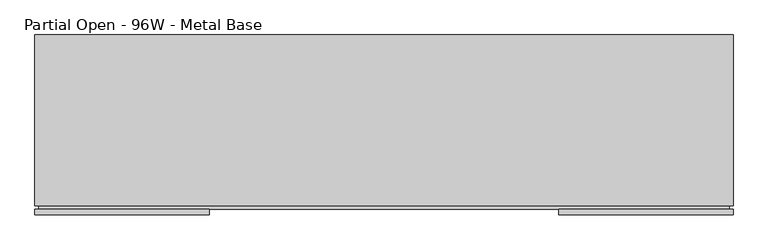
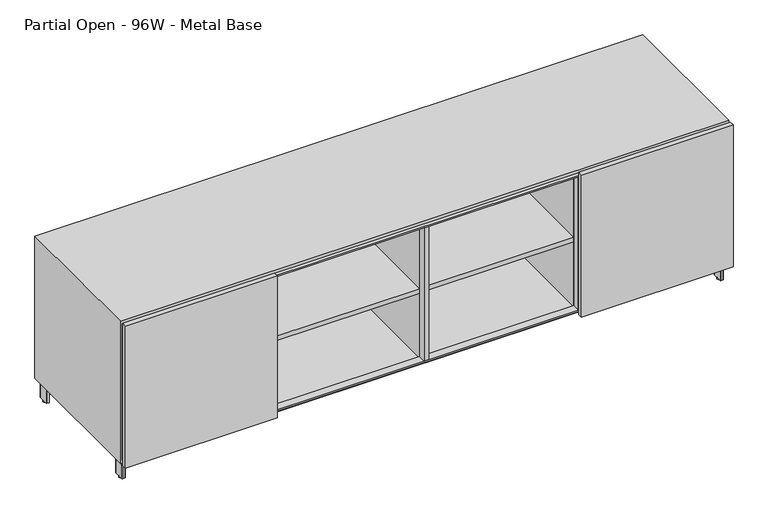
"""IFC4 building model written with IfcOpenShell, lengths in millimetres: furniture geometry, Steelcase Coalesse - Exponents - Storage - Credenza - 27H : Partial Open - 96W - Metal Base."""

from ifc_helpers import new_model, si_unit, point, frame, frame_2d, origin, origin_with_axes, place, context, project, spatial, polyline, circle_curve, trimmed, segment, composite_curve, outline, extrude, faceted_brep, source, transform, mapped, element, save


def partial_open_96w_metal_base_f76c5528(model_context):
    return source(origin(), model_context, "Body", "SolidModel", [
        faceted_brep([(6.35, 31.75, 673.1), (6.35, 31.75, 95.25), (6.35, 622.3, 95.25), (6.35, 622.3, 673.1), (2432.05, 622.3, 95.25), (2432.05, 622.3, 673.1), (2432.05, 31.75, 95.25), (2432.05, 31.75, 673.1), (0.0, 31.75, 82.55), (2438.4, 31.75, 82.55), (2438.4, 31.75, 685.8), (0.0, 31.75, 685.8), (2438.4, 628.65, 82.55), (2438.4, 628.65, 685.8), (0.0, 628.65, 82.55), (0.0, 628.65, 685.8)], [[[0, 1, 2, 3]], [[3, 2, 4, 5]], [[5, 4, 6, 7]], [[8, 9, 10, 11], [7, 6, 1, 0]], [[10, 9, 12, 13]], [[13, 12, 14, 15]], [[15, 14, 8, 11]], [[7, 0, 3, 5]], [[10, 13, 15, 11]], [[1, 6, 4, 2]], [[12, 9, 8, 14]]]),
        extrude(outline(composite_curve([segment(polyline([(2414.7506426, 615.95), (2423.922, 615.95)]), True, "CONTINUOUS"), segment(trimmed(circle_curve(frame_2d((2423.922, 614.172)), 1.778), [point((2423.922, 615.95))], [point((2425.7, 614.172))], False, "CARTESIAN"), True, "CONTINUOUS"), segment(polyline([(2425.7, 614.172), (2425.7, 572.9986)]), True, "CONTINUOUS"), segment(trimmed(circle_curve(frame_2d((2423.922, 572.9986)), 1.778), [point((2425.7, 572.9986))], [point((2423.922, 571.2206))], False, "CARTESIAN"), True, "CONTINUOUS"), segment(polyline([(2423.922, 571.2206), (2414.7948916, 571.2206)]), True, "CONTINUOUS"), segment(trimmed(circle_curve(frame_2d((2414.7948916, 573.0154916)), 1.7948916), [point((2414.7948916, 571.2206))], [point((2413.0, 573.0154916))], False, "CARTESIAN"), True, "CONTINUOUS"), segment(polyline([(2413.0, 573.0154916), (2413.0, 614.1993574)]), True, "CONTINUOUS"), segment(trimmed(circle_curve(frame_2d((2414.7506426, 614.1993574)), 1.7506426), [point((2413.0, 614.1993574))], [point((2414.7506426, 615.95))], False, "CARTESIAN"), True, "CONTINUOUS")], self_intersect=False)), frame((0.0, 0.0, 6.35), z_axis=(0.0, 0.0, 1.0), x_axis=(1.0, 0.0, 0.0)), (0.0, 0.0, 1.0), 73.4568),
        extrude(outline(composite_curve([segment(polyline([(2414.7506426, 88.9), (2423.922, 88.9)]), True, "CONTINUOUS"), segment(trimmed(circle_curve(frame_2d((2423.922, 87.122)), 1.778), [point((2423.922, 88.9))], [point((2425.7, 87.122))], False, "CARTESIAN"), True, "CONTINUOUS"), segment(polyline([(2425.7, 87.122), (2425.7, 45.9486)]), True, "CONTINUOUS"), segment(trimmed(circle_curve(frame_2d((2423.922, 45.9486)), 1.778), [point((2425.7, 45.9486))], [point((2423.922, 44.1706))], False, "CARTESIAN"), True, "CONTINUOUS"), segment(polyline([(2423.922, 44.1706), (2414.7948916, 44.1706)]), True, "CONTINUOUS"), segment(trimmed(circle_curve(frame_2d((2414.7948916, 45.9654916)), 1.7948916), [point((2414.7948916, 44.1706))], [point((2413.0, 45.9654916))], False, "CARTESIAN"), True, "CONTINUOUS"), segment(polyline([(2413.0, 45.9654916), (2413.0, 87.1493574)]), True, "CONTINUOUS"), segment(trimmed(circle_curve(frame_2d((2414.7506426, 87.1493574)), 1.7506426), [point((2413.0, 87.1493574))], [point((2414.7506426, 88.9))], False, "CARTESIAN"), True, "CONTINUOUS")], self_intersect=False)), frame((0.0, 0.0, 6.35), z_axis=(0.0, 0.0, 1.0), x_axis=(1.0, 0.0, 0.0)), (0.0, 0.0, 1.0), 73.4568),
        extrude(outline(composite_curve([segment(trimmed(circle_curve(frame_2d((2419.35, 593.5667033)), 6.35), [point((2419.35, 599.9167033))], [point((2419.35, 587.2167033))], False, "CARTESIAN"), True, "CONTINUOUS"), segment(trimmed(circle_curve(frame_2d((2419.35, 593.5667033)), 6.35), [point((2419.35, 587.2167033))], [point((2419.35, 599.9167033))], False, "CARTESIAN"), True, "CONTINUOUS")], self_intersect=False)), origin_with_axes(), (0.0, 0.0, 1.0), 6.35),
        extrude(outline(composite_curve([segment(trimmed(circle_curve(frame_2d((2419.35, 66.7867854)), 6.35), [point((2419.35, 73.1367854))], [point((2419.35, 60.4367854))], False, "CARTESIAN"), True, "CONTINUOUS"), segment(trimmed(circle_curve(frame_2d((2419.35, 66.7867854)), 6.35), [point((2419.35, 60.4367854))], [point((2419.35, 73.1367854))], False, "CARTESIAN"), True, "CONTINUOUS")], self_intersect=False)), origin_with_axes(), (0.0, 0.0, 1.0), 6.35),
        extrude(outline(polyline([(1879.6, 379.0696809), (1879.6, 277.4696809), (1778.0, 277.4696809), (1778.0, 379.0696809), (1879.6, 379.0696809)])), frame((0.0, 0.0, 79.8068), z_axis=(0.0, 0.0, 1.0), x_axis=(1.0, 0.0, 0.0)), (0.0, 0.0, 1.0), 2.7432),
        extrude(outline(polyline([(673.1, 2425.7), (673.1, 12.7), (95.25, 12.7), (95.25, 2425.7), (673.1, 2425.7)]), holes=[polyline([(666.75, 2419.35), (101.6, 2419.35), (101.6, 19.05), (666.75, 19.05), (666.75, 2419.35)])]), frame((0.0, 19.05, 0.0), z_axis=(0.0, 1.0, 0.0), x_axis=(0.0, 0.0, 1.0)), (0.0, 0.0, 1.0), 31.75),
        extrude(outline(composite_curve([segment(polyline([(1821.0256426, 349.25), (1836.547, 349.25)]), True, "CONTINUOUS"), segment(trimmed(circle_curve(frame_2d((1836.547, 347.472)), 1.778), [point((1836.547, 349.25))], [point((1838.325, 347.472))], False, "CARTESIAN"), True, "CONTINUOUS"), segment(polyline([(1838.325, 347.472), (1838.325, 312.928)]), True, "CONTINUOUS"), segment(trimmed(circle_curve(frame_2d((1836.547, 312.928)), 1.778), [point((1838.325, 312.928))], [point((1836.547, 311.15))], False, "CARTESIAN"), True, "CONTINUOUS"), segment(polyline([(1836.547, 311.15), (1821.0698916, 311.15)]), True, "CONTINUOUS"), segment(trimmed(circle_curve(frame_2d((1821.0698916, 312.9448916)), 1.7948916), [point((1821.0698916, 311.15))], [point((1819.275, 312.9448916))], False, "CARTESIAN"), True, "CONTINUOUS"), segment(polyline([(1819.275, 312.9448916), (1819.275, 347.4993574)]), True, "CONTINUOUS"), segment(trimmed(circle_curve(frame_2d((1821.0256426, 347.4993574)), 1.7506426), [point((1819.275, 347.4993574))], [point((1821.0256426, 349.25))], False, "CARTESIAN"), True, "CONTINUOUS")], self_intersect=False)), frame((0.0, 0.0, 6.35), z_axis=(0.0, 0.0, 1.0), x_axis=(1.0, 0.0, 0.0)), (0.0, 0.0, 1.0), 73.4568),
        extrude(outline(polyline([(1830.0800308, 345.280854), (2413.0, 598.591626), (2413.0, 577.8206777), (1843.1741031, 330.2), (2413.0, 82.5793223), (2413.0, 61.808374), (1830.377267, 314.9899805), (1836.8101738, 329.7934165), (1830.0800308, 345.280854)])), frame((0.0, 0.0, 34.925), z_axis=(0.0, 0.0, 1.0), x_axis=(1.0, 0.0, 0.0)), (0.0, 0.0, 1.0), 44.8818),
        extrude(outline(polyline([(2432.05, 520.7), (2330.45, 520.7), (2330.45, 622.3), (2432.05, 622.3), (2432.05, 520.7)])), frame((0.0, 0.0, 79.8068), z_axis=(0.0, 0.0, 1.0), x_axis=(1.0, 0.0, 0.0)), (0.0, 0.0, 1.0), 2.7432),
        extrude(outline(polyline([(2432.05, 139.7), (2432.05, 38.1), (2330.45, 38.1), (2330.45, 139.7), (2432.05, 139.7)])), frame((0.0, 0.0, 79.8068), z_axis=(0.0, 0.0, 1.0), x_axis=(1.0, 0.0, 0.0)), (0.0, 0.0, 1.0), 2.7432),
        extrude(outline(composite_curve([segment(trimmed(circle_curve(frame_2d((1828.6250692, 330.5590189)), 6.35), [point((1828.6250692, 336.9090189))], [point((1828.6250692, 324.2090189))], False, "CARTESIAN"), True, "CONTINUOUS"), segment(trimmed(circle_curve(frame_2d((1828.6250692, 330.5590189)), 6.35), [point((1828.6250692, 324.2090189))], [point((1828.6250692, 336.9090189))], False, "CARTESIAN"), True, "CONTINUOUS")], self_intersect=False)), origin_with_axes(), (0.0, 0.0, 1.0), 6.35),
        extrude(outline(composite_curve([segment(trimmed(circle_curve(frame_2d((1219.2, 330.5590189)), 6.35), [point((1219.2, 324.2090189))], [point((1219.2, 336.9090189))], False, "CARTESIAN"), True, "CONTINUOUS"), segment(trimmed(circle_curve(frame_2d((1219.2, 330.5590189)), 6.35), [point((1219.2, 336.9090189))], [point((1219.2, 324.2090189))], False, "CARTESIAN"), True, "CONTINUOUS")], self_intersect=False)), origin_with_axes(), (0.0, 0.0, 1.0), 6.35),
        extrude(outline(polyline([(1168.4, 379.0696809), (1270.0, 379.0696809), (1270.0, 277.4696809), (1168.4, 277.4696809), (1168.4, 379.0696809)])), frame((0.0, 0.0, 79.8068), z_axis=(0.0, 0.0, 1.0), x_axis=(1.0, 0.0, 0.0)), (0.0, 0.0, 1.0), 2.7432),
        extrude(outline(composite_curve([segment(trimmed(circle_curve(frame_2d((1226.9743574, 347.4993574)), 1.7506426), [point((1226.9743574, 349.25))], [point((1228.725, 347.4993574))], False, "CARTESIAN"), True, "CONTINUOUS"), segment(polyline([(1228.725, 347.4993574), (1228.725, 312.9448916)]), True, "CONTINUOUS"), segment(trimmed(circle_curve(frame_2d((1226.9301084, 312.9448916)), 1.7948916), [point((1228.725, 312.9448916))], [point((1226.9301084, 311.15))], False, "CARTESIAN"), True, "CONTINUOUS"), segment(polyline([(1226.9301084, 311.15), (1211.453, 311.15)]), True, "CONTINUOUS"), segment(trimmed(circle_curve(frame_2d((1211.453, 312.928)), 1.778), [point((1211.453, 311.15))], [point((1209.675, 312.928))], False, "CARTESIAN"), True, "CONTINUOUS"), segment(polyline([(1209.675, 312.928), (1209.675, 347.472)]), True, "CONTINUOUS"), segment(trimmed(circle_curve(frame_2d((1211.453, 347.472)), 1.778), [point((1209.675, 347.472))], [point((1211.453, 349.25))], False, "CARTESIAN"), True, "CONTINUOUS"), segment(polyline([(1211.453, 349.25), (1226.9743574, 349.25)]), True, "CONTINUOUS")], self_intersect=False)), frame((0.0, 0.0, 6.35), z_axis=(0.0, 0.0, 1.0), x_axis=(1.0, 0.0, 0.0)), (0.0, 0.0, 1.0), 73.4568),
        extrude(outline(polyline([(2438.4, 19.05), (2438.4, 0.0), (1829.435, 0.0), (1829.435, 19.05), (2438.4, 19.05)])), frame((0.0, 0.0, 82.55), z_axis=(0.0, 0.0, 1.0), x_axis=(1.0, 0.0, 0.0)), (0.0, 0.0, 1.0), 603.25),
        extrude(outline(composite_curve([segment(trimmed(circle_curve(frame_2d((23.6493574, 614.1993574)), 1.7506426), [point((23.6493574, 615.95))], [point((25.4, 614.1993574))], False, "CARTESIAN"), True, "CONTINUOUS"), segment(polyline([(25.4, 614.1993574), (25.4, 573.0154916)]), True, "CONTINUOUS"), segment(trimmed(circle_curve(frame_2d((23.6051084, 573.0154916)), 1.7948916), [point((25.4, 573.0154916))], [point((23.6051084, 571.2206))], False, "CARTESIAN"), True, "CONTINUOUS"), segment(polyline([(23.6051084, 571.2206), (14.478, 571.2206)]), True, "CONTINUOUS"), segment(trimmed(circle_curve(frame_2d((14.478, 572.9986)), 1.778), [point((14.478, 571.2206))], [point((12.7, 572.9986))], False, "CARTESIAN"), True, "CONTINUOUS"), segment(polyline([(12.7, 572.9986), (12.7, 614.172)]), True, "CONTINUOUS"), segment(trimmed(circle_curve(frame_2d((14.478, 614.172)), 1.778), [point((12.7, 614.172))], [point((14.478, 615.95))], False, "CARTESIAN"), True, "CONTINUOUS"), segment(polyline([(14.478, 615.95), (23.6493574, 615.95)]), True, "CONTINUOUS")], self_intersect=False)), frame((0.0, 0.0, 6.35), z_axis=(0.0, 0.0, 1.0), x_axis=(1.0, 0.0, 0.0)), (0.0, 0.0, 1.0), 73.4568),
        extrude(outline(composite_curve([segment(trimmed(circle_curve(frame_2d((23.6493574, 87.1493574)), 1.7506426), [point((23.6493574, 88.9))], [point((25.4, 87.1493574))], False, "CARTESIAN"), True, "CONTINUOUS"), segment(polyline([(25.4, 87.1493574), (25.4, 45.9654916)]), True, "CONTINUOUS"), segment(trimmed(circle_curve(frame_2d((23.6051084, 45.9654916)), 1.7948916), [point((25.4, 45.9654916))], [point((23.6051084, 44.1706))], False, "CARTESIAN"), True, "CONTINUOUS"), segment(polyline([(23.6051084, 44.1706), (14.478, 44.1706)]), True, "CONTINUOUS"), segment(trimmed(circle_curve(frame_2d((14.478, 45.9486)), 1.778), [point((14.478, 44.1706))], [point((12.7, 45.9486))], False, "CARTESIAN"), True, "CONTINUOUS"), segment(polyline([(12.7, 45.9486), (12.7, 87.122)]), True, "CONTINUOUS"), segment(trimmed(circle_curve(frame_2d((14.478, 87.122)), 1.778), [point((12.7, 87.122))], [point((14.478, 88.9))], False, "CARTESIAN"), True, "CONTINUOUS"), segment(polyline([(14.478, 88.9), (23.6493574, 88.9)]), True, "CONTINUOUS")], self_intersect=False)), frame((0.0, 0.0, 6.35), z_axis=(0.0, 0.0, 1.0), x_axis=(1.0, 0.0, 0.0)), (0.0, 0.0, 1.0), 73.4568),
        extrude(outline(composite_curve([segment(trimmed(circle_curve(frame_2d((617.3743574, 347.4993574)), 1.7506426), [point((617.3743574, 349.25))], [point((619.125, 347.4993574))], False, "CARTESIAN"), True, "CONTINUOUS"), segment(polyline([(619.125, 347.4993574), (619.125, 312.9448916)]), True, "CONTINUOUS"), segment(trimmed(circle_curve(frame_2d((617.3301084, 312.9448916)), 1.7948916), [point((619.125, 312.9448916))], [point((617.3301084, 311.15))], False, "CARTESIAN"), True, "CONTINUOUS"), segment(polyline([(617.3301084, 311.15), (601.853, 311.15)]), True, "CONTINUOUS"), segment(trimmed(circle_curve(frame_2d((601.853, 312.928)), 1.778), [point((601.853, 311.15))], [point((600.075, 312.928))], False, "CARTESIAN"), True, "CONTINUOUS"), segment(polyline([(600.075, 312.928), (600.075, 347.472)]), True, "CONTINUOUS"), segment(trimmed(circle_curve(frame_2d((601.853, 347.472)), 1.778), [point((600.075, 347.472))], [point((601.853, 349.25))], False, "CARTESIAN"), True, "CONTINUOUS"), segment(polyline([(601.853, 349.25), (617.3743574, 349.25)]), True, "CONTINUOUS")], self_intersect=False)), frame((0.0, 0.0, 6.35), z_axis=(0.0, 0.0, 1.0), x_axis=(1.0, 0.0, 0.0)), (0.0, 0.0, 1.0), 73.4568),
        extrude(outline(polyline([(608.3199692, 345.280854), (601.5898262, 329.7934165), (608.022733, 314.9899805), (25.4, 61.808374), (25.4, 82.5793223), (595.2258969, 330.2), (25.4, 577.8206777), (25.4, 598.591626), (608.3199692, 345.280854)])), frame((0.0, 0.0, 34.925), z_axis=(0.0, 0.0, 1.0), x_axis=(1.0, 0.0, 0.0)), (0.0, 0.0, 1.0), 44.8818),
        extrude(outline(polyline([(6.35, 520.7), (6.35, 622.3), (107.95, 622.3), (107.95, 520.7), (6.35, 520.7)])), frame((0.0, 0.0, 79.8068), z_axis=(0.0, 0.0, 1.0), x_axis=(1.0, 0.0, 0.0)), (0.0, 0.0, 1.0), 2.7432),
        extrude(outline(polyline([(6.35, 139.7), (107.95, 139.7), (107.95, 38.1), (6.35, 38.1), (6.35, 139.7)])), frame((0.0, 0.0, 79.8068), z_axis=(0.0, 0.0, 1.0), x_axis=(1.0, 0.0, 0.0)), (0.0, 0.0, 1.0), 2.7432),
        extrude(outline(polyline([(558.8, 379.0696809), (660.4, 379.0696809), (660.4, 277.4696809), (558.8, 277.4696809), (558.8, 379.0696809)])), frame((0.0, 0.0, 79.8068), z_axis=(0.0, 0.0, 1.0), x_axis=(1.0, 0.0, 0.0)), (0.0, 0.0, 1.0), 2.7432),
        extrude(outline(polyline([(608.965, 19.05), (608.965, 0.0), (0.0, 0.0), (0.0, 19.05), (608.965, 19.05)])), frame((0.0, 0.0, 82.55), z_axis=(0.0, 0.0, 1.0), x_axis=(1.0, 0.0, 0.0)), (0.0, 0.0, 1.0), 603.25),
        extrude(outline(composite_curve([segment(trimmed(circle_curve(frame_2d((19.05, 593.5667033)), 6.35), [point((12.7, 593.5667033))], [point((25.4, 593.5667033))], False, "CARTESIAN"), True, "CONTINUOUS"), segment(trimmed(circle_curve(frame_2d((19.05, 593.5667033)), 6.35), [point((25.4, 593.5667033))], [point((12.7, 593.5667033))], False, "CARTESIAN"), True, "CONTINUOUS")], self_intersect=False)), origin_with_axes(), (0.0, 0.0, 1.0), 6.35),
        extrude(outline(composite_curve([segment(trimmed(circle_curve(frame_2d((19.05, 66.7867854)), 6.35), [point((12.7, 66.7867854))], [point((25.4, 66.7867854))], False, "CARTESIAN"), True, "CONTINUOUS"), segment(trimmed(circle_curve(frame_2d((19.05, 66.7867854)), 6.35), [point((25.4, 66.7867854))], [point((12.7, 66.7867854))], False, "CARTESIAN"), True, "CONTINUOUS")], self_intersect=False)), origin_with_axes(), (0.0, 0.0, 1.0), 6.35),
        extrude(outline(composite_curve([segment(trimmed(circle_curve(frame_2d((609.7749308, 330.5590189)), 6.35), [point((603.4249308, 330.5590189))], [point((616.1249308, 330.5590189))], False, "CARTESIAN"), True, "CONTINUOUS"), segment(trimmed(circle_curve(frame_2d((609.7749308, 330.5590189)), 6.35), [point((616.1249308, 330.5590189))], [point((603.4249308, 330.5590189))], False, "CARTESIAN"), True, "CONTINUOUS")], self_intersect=False)), origin_with_axes(), (0.0, 0.0, 1.0), 6.35),
        extrude(outline(polyline([(0.0, -19.05), (0.0, 0.0), (31.75, 0.0), (31.75, -19.05), (0.0, -19.05)])), frame((1828.8, 19.05, 101.6), z_axis=(2.934541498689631e-12, 0.0, 1.0), x_axis=(0.0, 1.0, 0.0)), (0.0, 0.0, 1.0), 565.15),
        extrude(outline(polyline([(0.0, -19.05), (0.0, 0.0), (31.75, 0.0), (31.75, -19.05), (0.0, -19.05)])), frame((1209.675, 19.05, 101.6), z_axis=(3.1477043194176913e-12, 0.0, 1.0), x_axis=(0.0, 1.0, 0.0)), (0.0, 0.0, 1.0), 565.15),
        extrude(outline(polyline([(0.0, -19.05), (0.0, 0.0), (31.75, 0.0), (31.75, -19.05), (0.0, -19.05)])), frame((590.55, 19.05, 101.6), z_axis=(3.3608671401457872e-12, 0.0, 1.0), x_axis=(0.0, 1.0, 0.0)), (0.0, 0.0, 1.0), 565.15),
        extrude(outline(polyline([(1209.675, 609.6), (1228.725, 609.6), (1228.725, 50.8), (1209.675, 50.8), (1209.675, 609.6)])), frame((0.0, 0.0, 95.25), z_axis=(0.0, 0.0, 1.0), x_axis=(1.0, 0.0, 0.0)), (0.0, 0.0, 1.0), 577.85),
        extrude(outline(polyline([(1828.8, 609.6), (1847.85, 609.6), (1847.85, 50.8), (1828.8, 50.8), (1828.8, 609.6)])), frame((0.0, 0.0, 95.25), z_axis=(0.0, 0.0, 1.0), x_axis=(1.0, 0.0, 0.0)), (0.0, 0.0, 1.0), 577.85),
        extrude(outline(polyline([(1828.8, 50.8), (1228.725, 50.8), (1228.725, 609.6), (1828.8, 609.6), (1828.8, 50.8)])), frame((0.0, 0.0, 371.475), z_axis=(0.0, 0.0, 1.0), x_axis=(1.0, 0.0, 0.0)), (0.0, 0.0, 1.0), 19.05),
        extrude(outline(polyline([(1209.675, 50.8), (609.6, 50.8), (609.6, 609.6), (1209.675, 609.6), (1209.675, 50.8)])), frame((0.0, 0.0, 371.475), z_axis=(0.0, 0.0, 1.0), x_axis=(1.0, 0.0, 0.0)), (0.0, 0.0, 1.0), 19.05),
        extrude(outline(polyline([(590.55, 609.6), (609.6, 609.6), (609.6, 50.8), (590.55, 50.8), (590.55, 609.6)])), frame((0.0, 0.0, 95.25), z_axis=(0.0, 0.0, 1.0), x_axis=(1.0, 0.0, 0.0)), (0.0, 0.0, 1.0), 577.85),
    ])


if __name__ == "__main__":
    model = new_model("IFC4")
    model_context = context("Model", 3, world=origin())
    ifc_project = project(units=[si_unit("LENGTHUNIT", "METRE", prefix="MILLI")], contexts=[model_context])
    site = spatial("IfcSite", under=ifc_project)
    building = spatial("IfcBuilding", under=site)
    placement = place(None, origin())
    partial_open_96w_metal_base_shape = partial_open_96w_metal_base_f76c5528(model_context)
    element("IfcFurniture", 1, ObjectType="Steelcase Coalesse - Exponents - Storage - Credenza - 27H : Partial Open - 96W - Metal Base", at=placement, inside=building, context=model_context, shape_type="MappedRepresentation", body=[
        mapped(partial_open_96w_metal_base_shape, transform((0.0, 0.0, 0.0), x_axis=(1.0, 0.0, 0.0), y_axis=(0.0, 1.0, 0.0), z_axis=(0.0, 0.0, 1.0))),
    ])
    save(model, "model.ifc")
